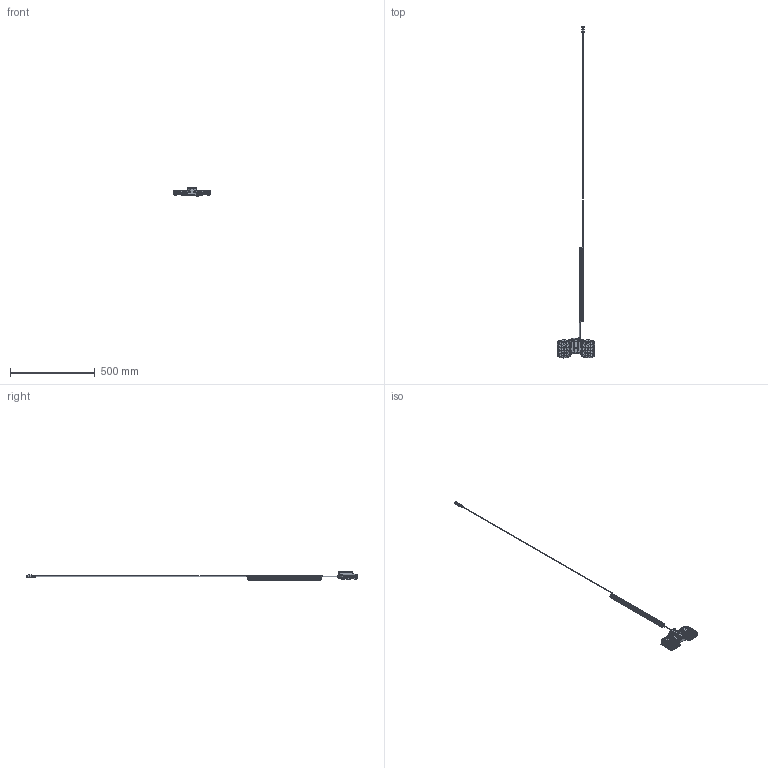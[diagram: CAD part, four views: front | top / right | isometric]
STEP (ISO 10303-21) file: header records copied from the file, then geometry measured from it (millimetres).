
FILE_DESCRIPTION(/* description */ ('Unknown'),/* implementation_level */ '2;1');
FILE_NAME(/* name */ '124.00170_02',/* time_stamp */ '2025-02-13T09:28:10+01:00',/* author */ ('Unknown'),/* organization */ ('Unknown'),/* preprocessor_version */ 'ST-DEVELOPER v18.102',/* originating_system */ 'Solid Edge',/* authorisation */ 'Unknown');
FILE_SCHEMA (('AUTOMOTIVE_DESIGN {1 0 10303 214 3 1 1}'));
Products named in the file (1): 124.00170
Bounding box: 220 x 1953.59 x 49.8 mm (x, y, z)
Volume: 348783.3 mm3; surface area: 272251 mm2
Topology: 24 solids, 24 shells, 1748 faces, 4290 edges, 2787 vertices
Faces by surface type: plane 784, cylinder 399, cone 172, bspline 154, sphere 148, torus 91
Full cylindrical faces by diameter (mm): 1.5 x7, 2.9 x4, 3.2 x4, 4.1 x4, 4.8 x1, 5 x2, 5.15 x4, 5.5 x5, 5.7 x8, 6 x122, 6.4 x1, 7.1 x1, 7.9 x1, 8 x1, 8.7 x2, 9.8 x1, 10 x2, 11 x8, 13.3 x1, 16 x1
Entity records: 173977 total; most frequent: CARTESIAN_POINT 134556, ORIENTED_EDGE 7776, DIRECTION 7228, EDGE_CURVE 3888, AXIS2_PLACEMENT_3D 2742, VERTEX_POINT 2709, EDGE_LOOP 2373, FACE_BOUND 2373
